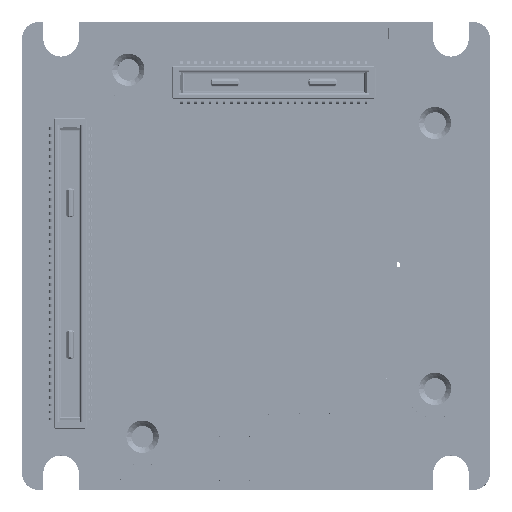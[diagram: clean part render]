
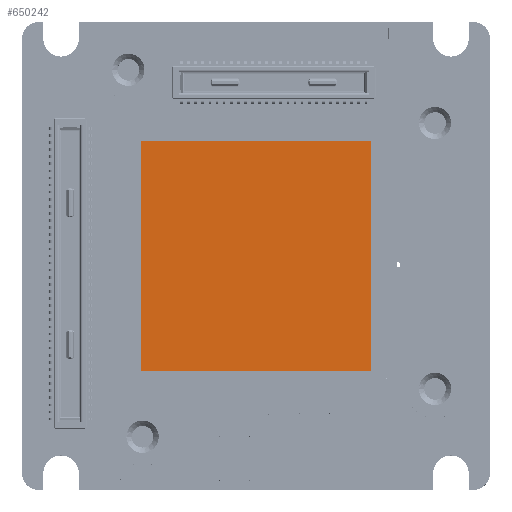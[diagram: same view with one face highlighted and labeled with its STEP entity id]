
A CAD part, top view. The second image highlights one B-rep face of the part: STEP entity #650242.
In plain terms, the highlighted planar face has unit normal (0, 0, 1).
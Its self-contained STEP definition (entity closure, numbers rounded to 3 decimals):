
#650 = DIRECTION ( 'NONE',  ( 0., 1., 0. ) ) ;
#1393 = DIRECTION ( 'NONE',  ( 0., -1., 0. ) ) ;
#30485 = VERTEX_POINT ( 'NONE', #415371 ) ;
#44262 = AXIS2_PLACEMENT_3D ( 'NONE', #388668, #448245, #168591 ) ;
#52994 = VERTEX_POINT ( 'NONE', #149840 ) ;
#59634 = ORIENTED_EDGE ( 'NONE', *, *, #586145, .F. ) ;
#76142 = ORIENTED_EDGE ( 'NONE', *, *, #83905, .F. ) ;
#83905 = EDGE_CURVE ( 'NONE', #664668, #150995, #527031, .T. ) ;
#97816 = PLANE ( 'NONE',  #44262 ) ;
#112011 = CARTESIAN_POINT ( 'NONE',  ( 6.5, -6.5, 6.162 ) ) ;
#144637 = EDGE_LOOP ( 'NONE', ( #579744, #76142, #59634, #682387 ) ) ;
#149840 = CARTESIAN_POINT ( 'NONE',  ( -6.5, -6.5, 6.162 ) ) ;
#150995 = VERTEX_POINT ( 'NONE', #112011 ) ;
#157539 = FACE_OUTER_BOUND ( 'NONE', #144637, .T. ) ;
#162542 = LINE ( 'NONE', #278129, #204369 ) ;
#166289 = DIRECTION ( 'NONE',  ( 1., 0., 0. ) ) ;
#168591 = DIRECTION ( 'NONE',  ( 0., -1., 0. ) ) ;
#204369 = VECTOR ( 'NONE', #166289, 1000. ) ;
#233733 = EDGE_CURVE ( 'NONE', #52994, #30485, #679448, .T. ) ;
#278129 = CARTESIAN_POINT ( 'NONE',  ( -6.5, 6.5, 6.162 ) ) ;
#388668 = CARTESIAN_POINT ( 'NONE',  ( 0., 0., 6.162 ) ) ;
#396808 = CARTESIAN_POINT ( 'NONE',  ( 6.5, -6.5, 6.162 ) ) ;
#415371 = CARTESIAN_POINT ( 'NONE',  ( -6.5, 6.5, 6.162 ) ) ;
#448245 = DIRECTION ( 'NONE',  ( 0., 0., -1. ) ) ;
#511579 = CARTESIAN_POINT ( 'NONE',  ( -6.5, -6.5, 6.162 ) ) ;
#527031 = LINE ( 'NONE', #586568, #690786 ) ;
#572637 = VECTOR ( 'NONE', #624229, 1000. ) ;
#579744 = ORIENTED_EDGE ( 'NONE', *, *, #720786, .F. ) ;
#582990 = LINE ( 'NONE', #396808, #572637 ) ;
#586145 = EDGE_CURVE ( 'NONE', #30485, #664668, #162542, .T. ) ;
#586568 = CARTESIAN_POINT ( 'NONE',  ( 6.5, 6.5, 6.162 ) ) ;
#612615 = VECTOR ( 'NONE', #650, 1000. ) ;
#624229 = DIRECTION ( 'NONE',  ( -1., 0., 0. ) ) ;
#650242 = ADVANCED_FACE ( 'NONE', ( #157539 ), #97816, .F. ) ;
#664668 = VERTEX_POINT ( 'NONE', #667364 ) ;
#667364 = CARTESIAN_POINT ( 'NONE',  ( 6.5, 6.5, 6.162 ) ) ;
#679448 = LINE ( 'NONE', #511579, #612615 ) ;
#682387 = ORIENTED_EDGE ( 'NONE', *, *, #233733, .F. ) ;
#690786 = VECTOR ( 'NONE', #1393, 1000. ) ;
#720786 = EDGE_CURVE ( 'NONE', #150995, #52994, #582990, .T. ) ;
